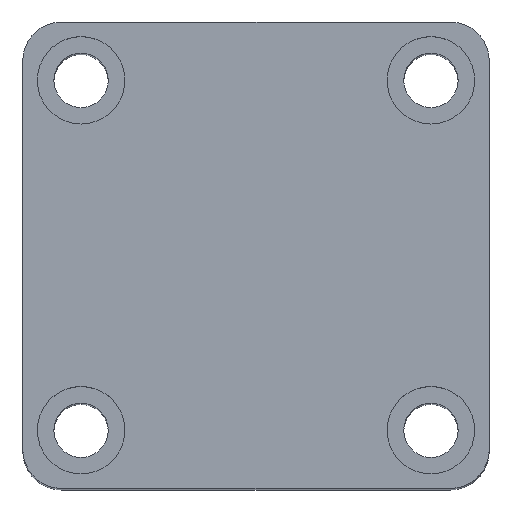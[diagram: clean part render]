
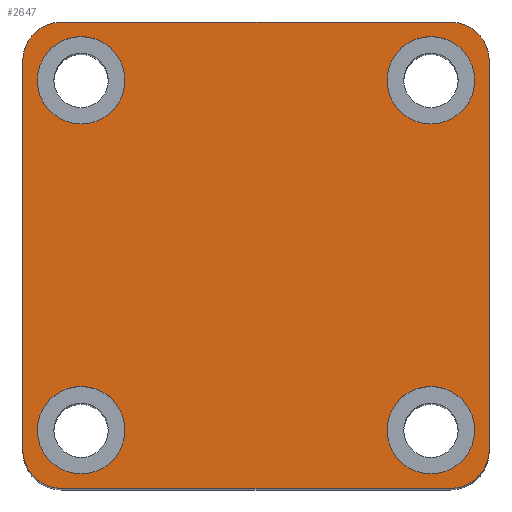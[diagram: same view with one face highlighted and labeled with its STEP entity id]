
A CAD part, top view. The second image highlights one B-rep face of the part: STEP entity #2647.
In plain terms, the highlighted planar face has unit normal (0, 0, 1).
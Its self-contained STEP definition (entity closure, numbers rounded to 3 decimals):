
#207 = ORIENTED_EDGE ( 'NONE', *, *, #659, .F. ) ;
#208 = ORIENTED_EDGE ( 'NONE', *, *, #597, .F. ) ;
#209 = ORIENTED_EDGE ( 'NONE', *, *, #660, .F. ) ;
#210 = ORIENTED_EDGE ( 'NONE', *, *, #601, .F. ) ;
#211 = ORIENTED_EDGE ( 'NONE', *, *, #661, .F. ) ;
#214 = ORIENTED_EDGE ( 'NONE', *, *, #605, .F. ) ;
#215 = ORIENTED_EDGE ( 'NONE', *, *, #662, .F. ) ;
#217 = ORIENTED_EDGE ( 'NONE', *, *, #609, .F. ) ;
#218 = ORIENTED_EDGE ( 'NONE', *, *, #647, .T. ) ;
#220 = ORIENTED_EDGE ( 'NONE', *, *, #663, .T. ) ;
#221 = ORIENTED_EDGE ( 'NONE', *, *, #649, .T. ) ;
#222 = ORIENTED_EDGE ( 'NONE', *, *, #664, .T. ) ;
#223 = ORIENTED_EDGE ( 'NONE', *, *, #653, .T. ) ;
#224 = ORIENTED_EDGE ( 'NONE', *, *, #665, .T. ) ;
#225 = ORIENTED_EDGE ( 'NONE', *, *, #637, .T. ) ;
#226 = ORIENTED_EDGE ( 'NONE', *, *, #668, .T. ) ;
#259 = VERTEX_POINT ( 'NONE', #1438 ) ;
#263 = VERTEX_POINT ( 'NONE', #1439 ) ;
#264 = VERTEX_POINT ( 'NONE', #1445 ) ;
#270 = VERTEX_POINT ( 'NONE', #1432 ) ;
#276 = VERTEX_POINT ( 'NONE', #1416 ) ;
#279 = VERTEX_POINT ( 'NONE', #1401 ) ;
#285 = VERTEX_POINT ( 'NONE', #1376 ) ;
#290 = VERTEX_POINT ( 'NONE', #1354 ) ;
#292 = VERTEX_POINT ( 'NONE', #1347 ) ;
#293 = VERTEX_POINT ( 'NONE', #1344 ) ;
#294 = VERTEX_POINT ( 'NONE', #1341 ) ;
#299 = VERTEX_POINT ( 'NONE', #1325 ) ;
#300 = VERTEX_POINT ( 'NONE', #1319 ) ;
#327 = VERTEX_POINT ( 'NONE', #1220 ) ;
#349 = VERTEX_POINT ( 'NONE', #1139 ) ;
#363 = VERTEX_POINT ( 'NONE', #1112 ) ;
#597 = EDGE_CURVE ( 'NONE', #279, #285, #781, .T. ) ;
#601 = EDGE_CURVE ( 'NONE', #259, #327, #773, .T. ) ;
#605 = EDGE_CURVE ( 'NONE', #270, #349, #767, .T. ) ;
#609 = EDGE_CURVE ( 'NONE', #293, #292, #761, .T. ) ;
#637 = EDGE_CURVE ( 'NONE', #299, #300, #722, .T. ) ;
#647 = EDGE_CURVE ( 'NONE', #363, #263, #709, .T. ) ;
#649 = EDGE_CURVE ( 'NONE', #290, #276, #705, .T. ) ;
#653 = EDGE_CURVE ( 'NONE', #264, #294, #1974, .T. ) ;
#659 = EDGE_CURVE ( 'NONE', #285, #279, #1969, .T. ) ;
#660 = EDGE_CURVE ( 'NONE', #327, #259, #1960, .T. ) ;
#661 = EDGE_CURVE ( 'NONE', #349, #270, #1959, .T. ) ;
#662 = EDGE_CURVE ( 'NONE', #292, #293, #1958, .T. ) ;
#663 = EDGE_CURVE ( 'NONE', #263, #290, #1957, .T. ) ;
#664 = EDGE_CURVE ( 'NONE', #276, #264, #1956, .T. ) ;
#665 = EDGE_CURVE ( 'NONE', #294, #299, #1955, .T. ) ;
#668 = EDGE_CURVE ( 'NONE', #300, #363, #1961, .T. ) ;
#702 = VECTOR ( 'NONE', #2484, 1000. ) ;
#705 = LINE ( 'NONE', #2477, #702 ) ;
#706 = VECTOR ( 'NONE', #2478, 1000. ) ;
#709 = LINE ( 'NONE', #2487, #706 ) ;
#720 = VECTOR ( 'NONE', #1085, 1000. ) ;
#722 = LINE ( 'NONE', #1087, #720 ) ;
#761 = CIRCLE ( 'NONE', #1648, 4.5 ) ;
#767 = CIRCLE ( 'NONE', #1651, 4.5 ) ;
#773 = CIRCLE ( 'NONE', #1653, 4.5 ) ;
#781 = CIRCLE ( 'NONE', #1655, 4.5 ) ;
#1020 = EDGE_LOOP ( 'NONE', ( #209, #210 ) ) ;
#1023 = EDGE_LOOP ( 'NONE', ( #215, #217 ) ) ;
#1024 = EDGE_LOOP ( 'NONE', ( #218, #220, #221, #222, #223, #224, #225, #226 ) ) ;
#1027 = EDGE_LOOP ( 'NONE', ( #207, #208 ) ) ;
#1028 = EDGE_LOOP ( 'NONE', ( #211, #214 ) ) ;
#1085 = DIRECTION ( 'NONE',  ( 0., 1., 0. ) ) ;
#1087 = CARTESIAN_POINT ( 'NONE',  ( 24., 24., 90. ) ) ;
#1112 = CARTESIAN_POINT ( 'NONE',  ( 20., 24., 90. ) ) ;
#1139 = CARTESIAN_POINT ( 'NONE',  ( -13.5, -18., 90. ) ) ;
#1189 = DIRECTION ( 'NONE',  ( 1., 0., 0. ) ) ;
#1190 = DIRECTION ( 'NONE',  ( 0., 0., 1. ) ) ;
#1191 = CARTESIAN_POINT ( 'NONE',  ( 18., -18., 90. ) ) ;
#1202 = DIRECTION ( 'NONE',  ( 1., 0., 0. ) ) ;
#1203 = DIRECTION ( 'NONE',  ( 0., 0., 1. ) ) ;
#1205 = CARTESIAN_POINT ( 'NONE',  ( -18., -18., 90. ) ) ;
#1216 = DIRECTION ( 'NONE',  ( 1., 0., 0. ) ) ;
#1217 = DIRECTION ( 'NONE',  ( 0., 0., 1. ) ) ;
#1219 = CARTESIAN_POINT ( 'NONE',  ( 18., 18., 90. ) ) ;
#1220 = CARTESIAN_POINT ( 'NONE',  ( 22.5, 18., 90. ) ) ;
#1230 = DIRECTION ( 'NONE',  ( 1., 0., 0. ) ) ;
#1231 = DIRECTION ( 'NONE',  ( 0., 0., 1. ) ) ;
#1233 = CARTESIAN_POINT ( 'NONE',  ( -18., 18., 90. ) ) ;
#1319 = CARTESIAN_POINT ( 'NONE',  ( 24., 20., 90. ) ) ;
#1325 = CARTESIAN_POINT ( 'NONE',  ( 24., -20., 90. ) ) ;
#1341 = CARTESIAN_POINT ( 'NONE',  ( 20., -24., 90. ) ) ;
#1344 = CARTESIAN_POINT ( 'NONE',  ( 13.5, -18., 90. ) ) ;
#1347 = CARTESIAN_POINT ( 'NONE',  ( 22.5, -18., 90. ) ) ;
#1354 = CARTESIAN_POINT ( 'NONE',  ( -24., 20., 90. ) ) ;
#1376 = CARTESIAN_POINT ( 'NONE',  ( -13.5, 18., 90. ) ) ;
#1401 = CARTESIAN_POINT ( 'NONE',  ( -22.5, 18., 90. ) ) ;
#1416 = CARTESIAN_POINT ( 'NONE',  ( -24., -20., 90. ) ) ;
#1432 = CARTESIAN_POINT ( 'NONE',  ( -22.5, -18., 90. ) ) ;
#1438 = CARTESIAN_POINT ( 'NONE',  ( 13.5, 18., 90. ) ) ;
#1439 = CARTESIAN_POINT ( 'NONE',  ( -20., 24., 90. ) ) ;
#1445 = CARTESIAN_POINT ( 'NONE',  ( -20., -24., 90. ) ) ;
#1580 = AXIS2_PLACEMENT_3D ( 'NONE', #2192, #2203, #2189 ) ;
#1601 = AXIS2_PLACEMENT_3D ( 'NONE', #2333, #2295, #2290 ) ;
#1604 = AXIS2_PLACEMENT_3D ( 'NONE', #2331, #2330, #2337 ) ;
#1605 = AXIS2_PLACEMENT_3D ( 'NONE', #2341, #2340, #2334 ) ;
#1606 = AXIS2_PLACEMENT_3D ( 'NONE', #2347, #2346, #2344 ) ;
#1608 = AXIS2_PLACEMENT_3D ( 'NONE', #2356, #2354, #2351 ) ;
#1612 = AXIS2_PLACEMENT_3D ( 'NONE', #2365, #2390, #2363 ) ;
#1614 = AXIS2_PLACEMENT_3D ( 'NONE', #2376, #2371, #2369 ) ;
#1616 = AXIS2_PLACEMENT_3D ( 'NONE', #2406, #2386, #2384 ) ;
#1648 = AXIS2_PLACEMENT_3D ( 'NONE', #1191, #1190, #1189 ) ;
#1651 = AXIS2_PLACEMENT_3D ( 'NONE', #1205, #1203, #1202 ) ;
#1653 = AXIS2_PLACEMENT_3D ( 'NONE', #1219, #1217, #1216 ) ;
#1655 = AXIS2_PLACEMENT_3D ( 'NONE', #1233, #1231, #1230 ) ;
#1780 = FACE_OUTER_BOUND ( 'NONE', #1024, .T. ) ;
#1781 = FACE_BOUND ( 'NONE', #1028, .T. ) ;
#1783 = FACE_BOUND ( 'NONE', #1027, .T. ) ;
#1788 = FACE_BOUND ( 'NONE', #1020, .T. ) ;
#1790 = FACE_BOUND ( 'NONE', #1023, .T. ) ;
#1955 = CIRCLE ( 'NONE', #1604, 4. ) ;
#1956 = CIRCLE ( 'NONE', #1605, 4. ) ;
#1957 = CIRCLE ( 'NONE', #1606, 4. ) ;
#1958 = CIRCLE ( 'NONE', #1608, 4.5 ) ;
#1959 = CIRCLE ( 'NONE', #1612, 4.5 ) ;
#1960 = CIRCLE ( 'NONE', #1614, 4.5 ) ;
#1961 = CIRCLE ( 'NONE', #1601, 4. ) ;
#1969 = CIRCLE ( 'NONE', #1616, 4.5 ) ;
#1970 = VECTOR ( 'NONE', #2449, 1000. ) ;
#1974 = LINE ( 'NONE', #2450, #1970 ) ;
#2189 = DIRECTION ( 'NONE',  ( 1., 0., 0. ) ) ;
#2192 = CARTESIAN_POINT ( 'NONE',  ( 0., 0., 90. ) ) ;
#2194 = PLANE ( 'NONE',  #1580 ) ;
#2203 = DIRECTION ( 'NONE',  ( 0., 0., 1. ) ) ;
#2290 = DIRECTION ( 'NONE',  ( 1., 0., 0. ) ) ;
#2295 = DIRECTION ( 'NONE',  ( 0., 0., 1. ) ) ;
#2330 = DIRECTION ( 'NONE',  ( 0., 0., 1. ) ) ;
#2331 = CARTESIAN_POINT ( 'NONE',  ( 20., -20., 90. ) ) ;
#2333 = CARTESIAN_POINT ( 'NONE',  ( 20., 20., 90. ) ) ;
#2334 = DIRECTION ( 'NONE',  ( 1., 0., 0. ) ) ;
#2337 = DIRECTION ( 'NONE',  ( 1., 0., 0. ) ) ;
#2340 = DIRECTION ( 'NONE',  ( 0., 0., 1. ) ) ;
#2341 = CARTESIAN_POINT ( 'NONE',  ( -20., -20., 90. ) ) ;
#2344 = DIRECTION ( 'NONE',  ( 1., 0., 0. ) ) ;
#2346 = DIRECTION ( 'NONE',  ( 0., 0., 1. ) ) ;
#2347 = CARTESIAN_POINT ( 'NONE',  ( -20., 20., 90. ) ) ;
#2351 = DIRECTION ( 'NONE',  ( 1., 0., 0. ) ) ;
#2354 = DIRECTION ( 'NONE',  ( 0., 0., 1. ) ) ;
#2356 = CARTESIAN_POINT ( 'NONE',  ( 18., -18., 90. ) ) ;
#2363 = DIRECTION ( 'NONE',  ( 1., 0., 0. ) ) ;
#2365 = CARTESIAN_POINT ( 'NONE',  ( -18., -18., 90. ) ) ;
#2369 = DIRECTION ( 'NONE',  ( 1., 0., 0. ) ) ;
#2371 = DIRECTION ( 'NONE',  ( 0., 0., 1. ) ) ;
#2376 = CARTESIAN_POINT ( 'NONE',  ( 18., 18., 90. ) ) ;
#2384 = DIRECTION ( 'NONE',  ( 1., 0., 0. ) ) ;
#2386 = DIRECTION ( 'NONE',  ( 0., 0., 1. ) ) ;
#2390 = DIRECTION ( 'NONE',  ( 0., 0., 1. ) ) ;
#2406 = CARTESIAN_POINT ( 'NONE',  ( -18., 18., 90. ) ) ;
#2449 = DIRECTION ( 'NONE',  ( 1., 0., 0. ) ) ;
#2450 = CARTESIAN_POINT ( 'NONE',  ( -24., -24., 90. ) ) ;
#2477 = CARTESIAN_POINT ( 'NONE',  ( -24., 24., 90. ) ) ;
#2478 = DIRECTION ( 'NONE',  ( -1., 0., 0. ) ) ;
#2484 = DIRECTION ( 'NONE',  ( 0., -1., 0. ) ) ;
#2487 = CARTESIAN_POINT ( 'NONE',  ( -24., 24., 90. ) ) ;
#2647 = ADVANCED_FACE ( 'NONE', ( #1783, #1788, #1781, #1790, #1780 ), #2194, .T. ) ;
